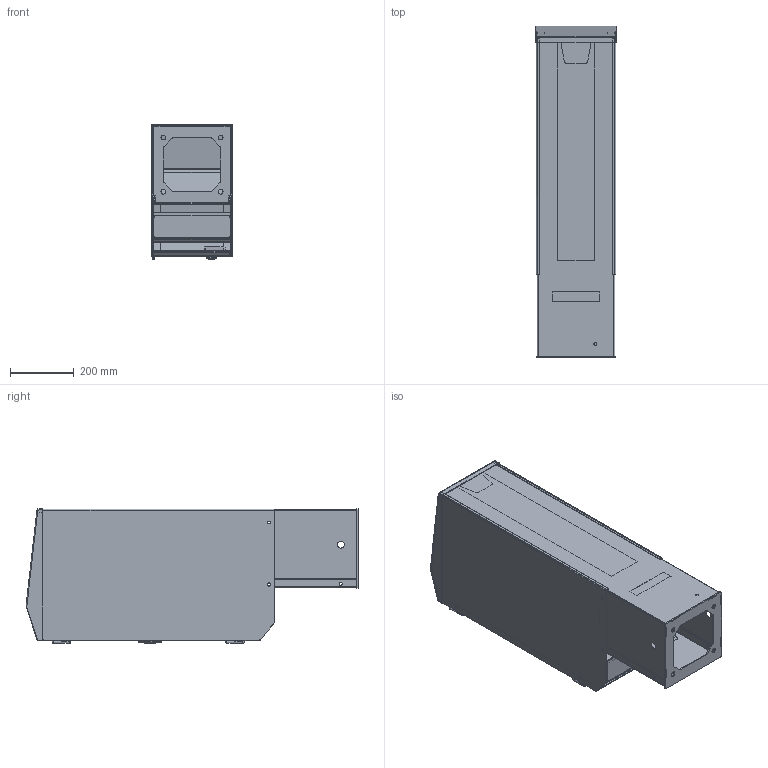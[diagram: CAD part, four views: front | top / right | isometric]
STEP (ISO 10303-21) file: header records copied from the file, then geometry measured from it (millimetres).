
FILE_DESCRIPTION((''),'2;1');
FILE_NAME('15741_SW0003','2020-01-22T07:31:23',('weltickej'),('MENNEKES'),'CREO PARAMETRIC BY PTC INC, 2018260','CREO PARAMETRIC BY PTC INC, 2018260','');
FILE_SCHEMA(('AUTOMOTIVE_DESIGN { 1 0 10303 214 1 1 1 1 }'));
Products named in the file (1): 15741_SW0003
Bounding box: 254 x 1044.02 x 424.15 mm (x, y, z)
Volume: 3031517 mm3; surface area: 3535591.8 mm2
Topology: 2 solids, 2 shells, 1297 faces, 3422 edges, 2093 vertices
Faces by surface type: plane 720, cylinder 493, bspline 58, cone 12, sphere 8, torus 6
Entity records: 108017 total; most frequent: CARTESIAN_POINT 68035, ORIENTED_EDGE 6844, DIRECTION 6689, EDGE_CURVE 3422, AXIS2_PLACEMENT_3D 2275, VECTOR 2139, LINE 2139, VERTEX_POINT 2093
